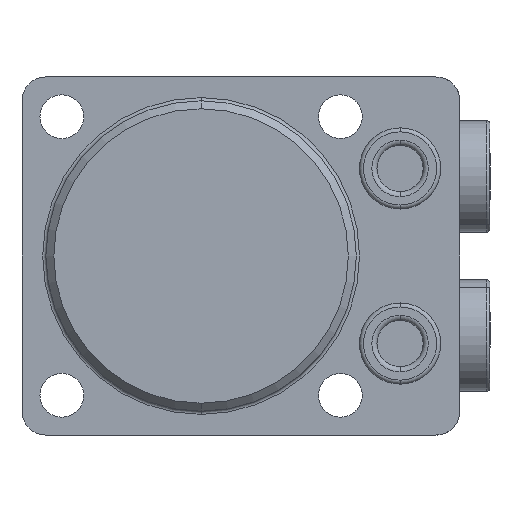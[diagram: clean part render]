
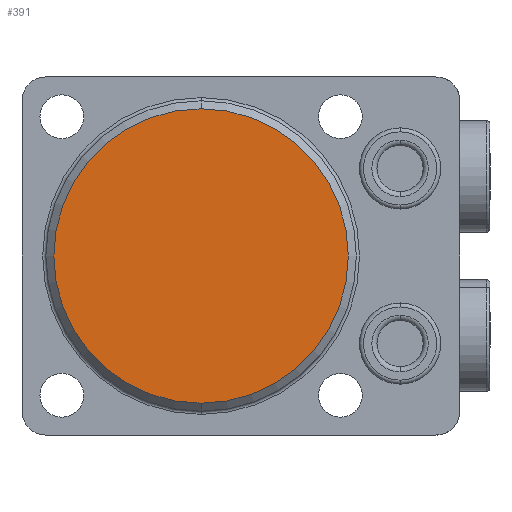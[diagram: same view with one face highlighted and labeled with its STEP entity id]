
A CAD part, front view. The second image highlights one B-rep face of the part: STEP entity #391.
In plain terms, the highlighted planar face has unit normal (0, -1, 0) as drawn and (0, 1, 0) by its records, which use the part's own axes.
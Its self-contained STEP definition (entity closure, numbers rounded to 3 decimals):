
#229=PLANE('',#3113);
#391=ADVANCED_FACE('',(#635),#229,.T.);
#635=FACE_OUTER_BOUND('',#813,.F.);
#813=EDGE_LOOP('',(#1394,#1395));
#1035=CIRCLE('',#3077,18.5);
#1057=CIRCLE('',#3112,18.5);
#1394=ORIENTED_EDGE('',*,*,#2407,.T.);
#1395=ORIENTED_EDGE('',*,*,#2346,.T.);
#2066=VERTEX_POINT('',#4559);
#2067=VERTEX_POINT('',#4560);
#2346=EDGE_CURVE('',#2066,#2067,#1035,.T.);
#2407=EDGE_CURVE('',#2067,#2066,#1057,.T.);
#3077=AXIS2_PLACEMENT_3D('',#4558,#3606,#3607);
#3112=AXIS2_PLACEMENT_3D('',#4688,#3710,#3711);
#3113=AXIS2_PLACEMENT_3D('',#4689,#3712,#3713);
#3606=DIRECTION('',(0.,-1.,0.));
#3607=DIRECTION('',(0.,0.,1.));
#3710=DIRECTION('',(0.,-1.,0.));
#3711=DIRECTION('',(0.,0.,1.));
#3712=DIRECTION('',(0.,1.,0.));
#3713=DIRECTION('',(0.,0.,1.));
#4558=CARTESIAN_POINT('',(0.,0.,0.));
#4559=CARTESIAN_POINT('',(0.,0.,-18.5));
#4560=CARTESIAN_POINT('',(0.,0.,18.5));
#4688=CARTESIAN_POINT('',(0.,0.,0.));
#4689=CARTESIAN_POINT('',(-22.5,0.,22.5));
